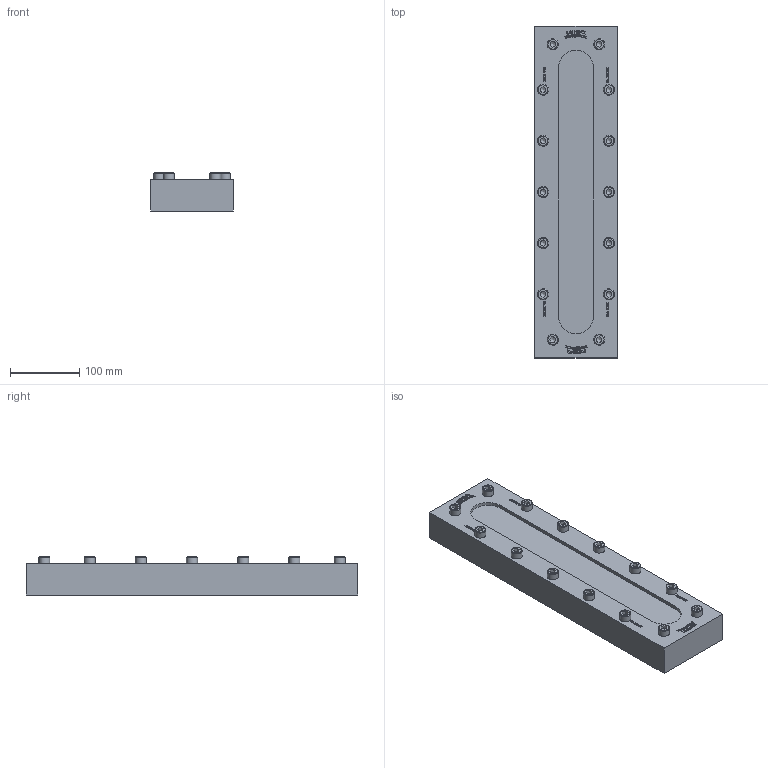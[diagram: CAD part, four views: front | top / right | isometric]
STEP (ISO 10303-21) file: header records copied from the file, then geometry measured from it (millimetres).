
FILE_DESCRIPTION(/* description */ (''),/* implementation_level */ '2;1');
FILE_NAME(/* name */ 'W:\Konstruktion_ACI\334\_Zeichnungen\STEP\ACI-334-480-3.stp',/* time_stamp */ '2022-03-02T16:35:19+01:00',/* author */ ('Travnicek'),/* organization */ ('ACI Industriearmaturen'),/* preprocessor_version */ 'ST-DEVELOPER v16.1',/* originating_system */ 'Autodesk Inventor 2016',/* authorisation */ '');
FILE_SCHEMA (('AUTOMOTIVE_DESIGN { 1 0 10303 214 3 1 1 }'));
Length unit declared in the file: centimetre
Products named in the file (1): 334
Bounding box: 120 x 480 x 54.96 mm (x, y, z)
Volume: 2137959.6 mm3; surface area: 200266.5 mm2
Topology: 1 solids, 1 shells, 1332 faces, 3652 edges, 2430 vertices
Faces by surface type: plane 914, bspline 372, cylinder 18, torus 14, cone 14
Full cylindrical faces by diameter (mm): 16 x14
Entity records: 44348 total; most frequent: CARTESIAN_POINT 12321, ORIENTED_EDGE 7164, DIRECTION 4726, EDGE_CURVE 3582, LINE 2704, VECTOR 2704, VERTEX_POINT 2402, EDGE_LOOP 1482
